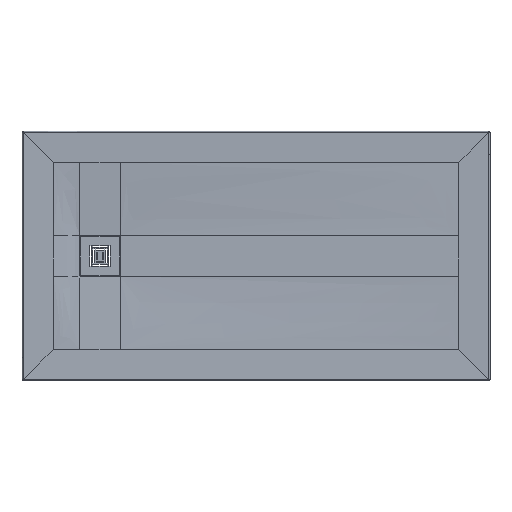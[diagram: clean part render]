
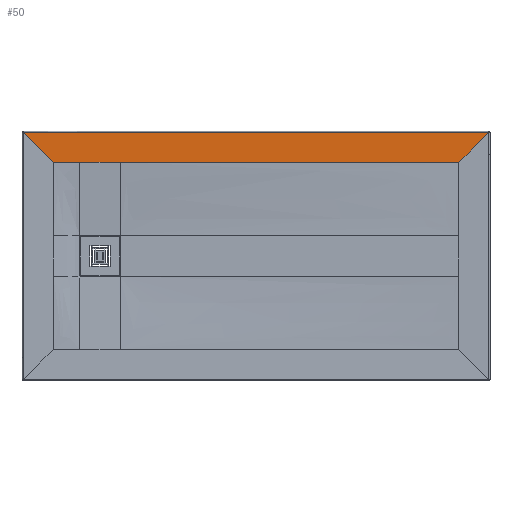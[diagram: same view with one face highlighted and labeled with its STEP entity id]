
A CAD part, top view. The second image highlights one B-rep face of the part: STEP entity #50.
In plain terms, the highlighted planar face has unit normal (0, -0.025, 1).
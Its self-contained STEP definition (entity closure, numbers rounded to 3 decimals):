
#50=ADVANCED_FACE('',(#166),#1864,.T.);
#166=FACE_OUTER_BOUND('',#282,.T.);
#282=EDGE_LOOP('',(#472,#473,#474,#475,#476,#477,#478,#479,#480,#481));
#472=ORIENTED_EDGE('',*,*,#1072,.T.);
#473=ORIENTED_EDGE('',*,*,#1073,.F.);
#474=ORIENTED_EDGE('',*,*,#1074,.T.);
#475=ORIENTED_EDGE('',*,*,#1070,.F.);
#476=ORIENTED_EDGE('',*,*,#1071,.F.);
#477=ORIENTED_EDGE('',*,*,#1042,.T.);
#478=ORIENTED_EDGE('',*,*,#1018,.T.);
#479=ORIENTED_EDGE('',*,*,#1066,.T.);
#480=ORIENTED_EDGE('',*,*,#1075,.T.);
#481=ORIENTED_EDGE('',*,*,#1076,.T.);
#1018=EDGE_CURVE('',#1658,#1659,#1358,.T.);
#1042=EDGE_CURVE('',#1678,#1658,#1382,.T.);
#1066=EDGE_CURVE('',#1659,#1699,#1406,.T.);
#1070=EDGE_CURVE('',#1706,#1705,#1410,.T.);
#1071=EDGE_CURVE('',#1678,#1706,#1411,.T.);
#1072=EDGE_CURVE('',#1703,#1702,#1412,.T.);
#1073=EDGE_CURVE('',#1701,#1702,#1413,.T.);
#1074=EDGE_CURVE('',#1701,#1705,#1414,.T.);
#1075=EDGE_CURVE('',#1699,#1704,#1415,.T.);
#1076=EDGE_CURVE('',#1704,#1703,#1416,.T.);
#1358=B_SPLINE_CURVE_WITH_KNOTS('',5,(#6283,#6284,#6285,#6286,#6287,#6288),
 .UNSPECIFIED.,.F.,.F.,(6,6),(-656.148,547.737),
 .UNSPECIFIED.);
#1382=B_SPLINE_CURVE_WITH_KNOTS('',1,(#6407,#6408),.UNSPECIFIED.,.F.,.F.,
(2,2),(-592.604,-449.535),.UNSPECIFIED.);
#1406=B_SPLINE_CURVE_WITH_KNOTS('',4,(#6661,#6662,#6663,#6664,#6665),
 .UNSPECIFIED.,.F.,.F.,(5,5),(0.,184.128),.UNSPECIFIED.);
#1410=B_SPLINE_CURVE_WITH_KNOTS('',5,(#6713,#6714,#6715,#6716,#6717,#6718),
 .UNSPECIFIED.,.F.,.F.,(6,6),(-115.93,-3.117),
 .UNSPECIFIED.);
#1411=B_SPLINE_CURVE_WITH_KNOTS('',5,(#6719,#6720,#6721,#6722,#6723,#6724),
 .UNSPECIFIED.,.F.,.F.,(6,6),(0.,93.373),.UNSPECIFIED.);
#1412=B_SPLINE_CURVE_WITH_KNOTS('',5,(#6725,#6726,#6727,#6728,#6729,#6730,
#6731,#6732,#6733,#6734,#6735,#6736,#6737,#6738,#6739),.UNSPECIFIED.,.F.,
 .F.,(6,3,3,3,6),(0.,1.56,2.146,2.228,
2.31),.UNSPECIFIED.);
#1413=B_SPLINE_CURVE_WITH_KNOTS('',1,(#6740,#6741),.UNSPECIFIED.,.F.,.F.,
(2,2),(-1490.9,0.),.UNSPECIFIED.);
#1414=B_SPLINE_CURVE_WITH_KNOTS('',5,(#6742,#6743,#6744,#6745,#6746,#6747,
#6748,#6749,#6750),.UNSPECIFIED.,.F.,.F.,(6,3,6),(7.165,8.289,
9.198),.UNSPECIFIED.);
#1415=B_SPLINE_CURVE_WITH_KNOTS('',3,(#6751,#6752,#6753,#6754),
 .UNSPECIFIED.,.F.,.F.,(4,4),(174.236,174.279),
 .UNSPECIFIED.);
#1416=B_SPLINE_CURVE_WITH_KNOTS('',3,(#6755,#6756,#6757,#6758),
 .UNSPECIFIED.,.F.,.F.,(4,4),(0.,4.752),.UNSPECIFIED.);
#1658=VERTEX_POINT('',#6166);
#1659=VERTEX_POINT('',#6167);
#1678=VERTEX_POINT('',#6186);
#1699=VERTEX_POINT('',#6207);
#1701=VERTEX_POINT('',#6209);
#1702=VERTEX_POINT('',#6210);
#1703=VERTEX_POINT('',#6211);
#1704=VERTEX_POINT('',#6212);
#1705=VERTEX_POINT('',#6213);
#1706=VERTEX_POINT('',#6214);
#1864=PLANE('',#2000);
#2000=AXIS2_PLACEMENT_3D('',#2477,#2058,$);
#2058=DIRECTION('',(0.,-0.025,1.));
#2477=CARTESIAN_POINT('',(1497.901,399.178,15.028));
#6166=CARTESIAN_POINT('',(-435.5,300.228,12.528));
#6167=CARTESIAN_POINT('',(650.,300.228,12.528));
#6186=CARTESIAN_POINT('',(-564.5,300.228,12.528));
#6207=CARTESIAN_POINT('',(746.022,396.25,14.954));
#6209=CARTESIAN_POINT('',(-746.042,396.604,14.963));
#6210=CARTESIAN_POINT('',(744.858,396.604,14.963));
#6211=CARTESIAN_POINT('',(746.001,396.301,14.955));
#6212=CARTESIAN_POINT('',(746.024,396.267,14.954));
#6213=CARTESIAN_POINT('',(-746.29,396.518,14.961));
#6214=CARTESIAN_POINT('',(-650.,300.228,12.528));
#6283=CARTESIAN_POINT('',(-435.5,300.228,12.528));
#6284=CARTESIAN_POINT('',(-218.4,300.228,12.528));
#6285=CARTESIAN_POINT('',(-1.3,300.228,12.528));
#6286=CARTESIAN_POINT('',(215.8,300.228,12.528));
#6287=CARTESIAN_POINT('',(432.9,300.228,12.528));
#6288=CARTESIAN_POINT('',(650.,300.228,12.528));
#6407=CARTESIAN_POINT('',(-564.5,300.228,12.528));
#6408=CARTESIAN_POINT('',(-435.5,300.228,12.528));
#6661=CARTESIAN_POINT('',(650.,300.228,12.528));
#6662=CARTESIAN_POINT('',(672.787,323.015,13.103));
#6663=CARTESIAN_POINT('',(696.53,346.758,13.703));
#6664=CARTESIAN_POINT('',(721.001,371.229,14.322));
#6665=CARTESIAN_POINT('',(746.022,396.25,14.954));
#6713=CARTESIAN_POINT('',(-650.,300.228,12.528));
#6714=CARTESIAN_POINT('',(-669.258,319.486,13.014));
#6715=CARTESIAN_POINT('',(-688.516,338.744,13.501));
#6716=CARTESIAN_POINT('',(-707.774,358.002,13.987));
#6717=CARTESIAN_POINT('',(-727.032,377.26,14.474));
#6718=CARTESIAN_POINT('',(-746.29,396.518,14.961));
#6719=CARTESIAN_POINT('',(-564.5,300.228,12.528));
#6720=CARTESIAN_POINT('',(-581.6,300.228,12.528));
#6721=CARTESIAN_POINT('',(-598.7,300.228,12.528));
#6722=CARTESIAN_POINT('',(-615.8,300.228,12.528));
#6723=CARTESIAN_POINT('',(-632.9,300.228,12.528));
#6724=CARTESIAN_POINT('',(-650.,300.228,12.528));
#6725=CARTESIAN_POINT('',(746.001,396.301,14.955));
#6726=CARTESIAN_POINT('',(745.825,396.324,14.956));
#6727=CARTESIAN_POINT('',(745.65,396.349,14.956));
#6728=CARTESIAN_POINT('',(745.504,396.374,14.957));
#6729=CARTESIAN_POINT('',(745.267,396.416,14.958));
#6730=CARTESIAN_POINT('',(745.048,396.479,14.96));
#6731=CARTESIAN_POINT('',(745.008,396.493,14.96));
#6732=CARTESIAN_POINT('',(744.941,396.516,14.96));
#6733=CARTESIAN_POINT('',(744.89,396.553,14.961));
#6734=CARTESIAN_POINT('',(744.884,396.558,14.962));
#6735=CARTESIAN_POINT('',(744.873,396.569,14.962));
#6736=CARTESIAN_POINT('',(744.864,396.582,14.962));
#6737=CARTESIAN_POINT('',(744.858,396.588,14.962));
#6738=CARTESIAN_POINT('',(744.858,396.596,14.963));
#6739=CARTESIAN_POINT('',(744.858,396.604,14.963));
#6740=CARTESIAN_POINT('',(-746.042,396.604,14.963));
#6741=CARTESIAN_POINT('',(744.858,396.604,14.963));
#6742=CARTESIAN_POINT('',(-746.042,396.604,14.963));
#6743=CARTESIAN_POINT('',(-746.072,396.604,14.963));
#6744=CARTESIAN_POINT('',(-746.101,396.601,14.963));
#6745=CARTESIAN_POINT('',(-746.131,396.596,14.963));
#6746=CARTESIAN_POINT('',(-746.182,396.581,14.962));
#6747=CARTESIAN_POINT('',(-746.231,396.558,14.962));
#6748=CARTESIAN_POINT('',(-746.252,396.546,14.961));
#6749=CARTESIAN_POINT('',(-746.271,396.533,14.961));
#6750=CARTESIAN_POINT('',(-746.29,396.518,14.961));
#6751=CARTESIAN_POINT('',(746.022,396.25,14.954));
#6752=CARTESIAN_POINT('',(746.023,396.256,14.954));
#6753=CARTESIAN_POINT('',(746.024,396.261,14.954));
#6754=CARTESIAN_POINT('',(746.024,396.267,14.954));
#6755=CARTESIAN_POINT('',(746.024,396.267,14.954));
#6756=CARTESIAN_POINT('',(746.026,396.28,14.955));
#6757=CARTESIAN_POINT('',(746.018,396.298,14.955));
#6758=CARTESIAN_POINT('',(746.001,396.301,14.955));
